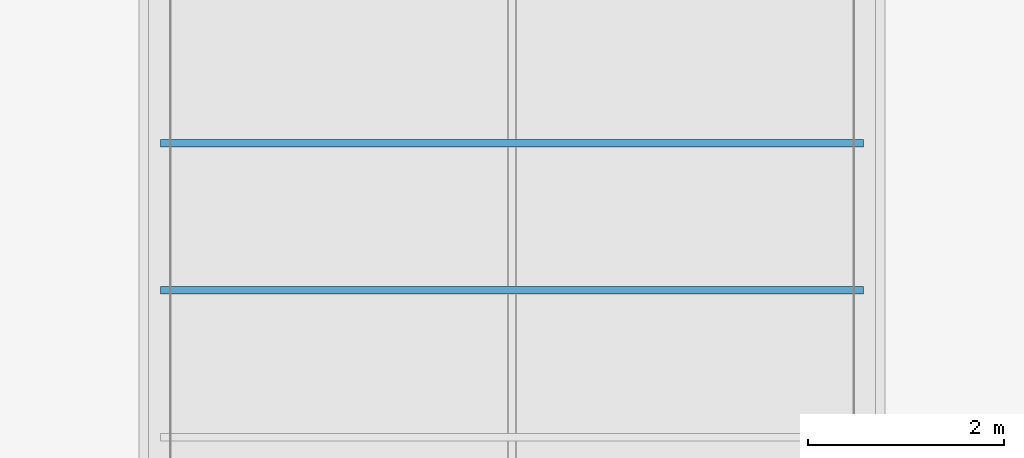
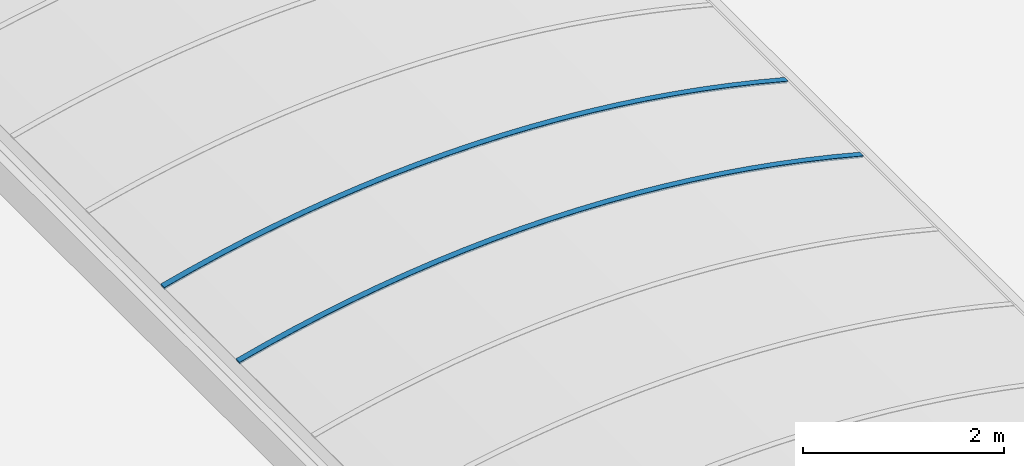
# One storey, part 60 of 81: 2 beams.
"""IFC2X3 building model written with IfcOpenShell, lengths in millimetres."""

from ifc_helpers import new_model, entity, si_unit, converted_unit, derived_unit, money_unit, direction, frame, origin_with_axes, place, context, subcontext, project, spatial, faceted_brep, material, material_list, type_object, element, save


model = new_model("IFC2X3")

# Units and contexts
model_context = context("Model", 3, precision=0.01, world=origin_with_axes(), true_north=direction((0.0, 1.0)))
body_context = subcontext(model_context, "Body", "Model", "MODEL_VIEW")
ifc_project = project(units=[si_unit("LENGTHUNIT", "METRE", prefix="MILLI"), si_unit("AREAUNIT", "SQUARE_METRE"), si_unit("VOLUMEUNIT", "CUBIC_METRE"), converted_unit("PLANEANGLEUNIT", "DEGREE", entity("IfcPlaneAngleMeasure", 0.0174532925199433), si_unit("PLANEANGLEUNIT", "RADIAN"), dimensions=[0, 0, 0, 0, 0, 0, 0]), money_unit("EUR"), converted_unit("TIMEUNIT", "Year", entity("IfcTimeMeasure", 31557600.0), si_unit("TIMEUNIT", "SECOND"), dimensions=[0, 0, 1, 0, 0, 0, 0]), si_unit("MASSUNIT", "GRAM", prefix="KILO"), si_unit("THERMODYNAMICTEMPERATUREUNIT", "DEGREE_CELSIUS"), si_unit("LUMINOUSINTENSITYUNIT", "LUMEN"), si_unit("ENERGYUNIT", "JOULE", prefix="MEGA"), derived_unit("THERMALCONDUCTANCEUNIT", [(si_unit("POWERUNIT", "WATT"), 1), (si_unit("LENGTHUNIT", "METRE"), -1), (si_unit("THERMODYNAMICTEMPERATUREUNIT", "KELVIN"), -1)]), derived_unit("SPECIFICHEATCAPACITYUNIT", [(si_unit("ENERGYUNIT", "JOULE"), 1), (si_unit("MASSUNIT", "GRAM", prefix="KILO"), -1), (si_unit("THERMODYNAMICTEMPERATUREUNIT", "KELVIN"), -1)]), derived_unit("MASSDENSITYUNIT", [(si_unit("MASSUNIT", "GRAM", prefix="KILO"), 1), (si_unit("VOLUMEUNIT", "CUBIC_METRE"), -1)])], contexts=[model_context])

# Site, building, storey
site_placement = place(None, origin_with_axes())
site = spatial("IfcSite", under=ifc_project, at=site_placement, Name="Site", CompositionType="ELEMENT")
building_placement = place(site_placement, origin_with_axes())
building = spatial("IfcBuilding", under=site, at=building_placement, Name="Naam gebouw", CompositionType="ELEMENT")
storey_placement = place(building_placement, frame((0.0, 0.0, 15320.0), z_axis=(0.0, 0.0, 1.0), x_axis=(1.0, 0.0, 0.0)))
storey = spatial("IfcBuildingStorey", under=building, at=storey_placement, Name="01 dak", CompositionType="ELEMENT", Elevation=15320.0)

# Beams
ifc_material = material(Name="Metaal - Aluminium AFW")
ifc_material_list = material_list([ifc_material, ifc_material])
beam_type = type_object("IfcBeamType", Name="lichtstraat polycarbonaat (constructie) 7420 x 670", PredefinedType="BEAM")
beam_1_placement = place(storey_placement, frame((105300.0, 86862.50000000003, 559.9999999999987), z_axis=(0.0, 0.0, 1.0), x_axis=(1.0, 0.0, 0.0)))
element("IfcBeam", 1, at=beam_1_placement, inside=storey, type_object=beam_type, material=ifc_material_list, Name="Plafondafwerking 3", ObjectType="BEAM", context=body_context, shape_type="Brep", body=[
    faceted_brep([(-3532.999999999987, 75.00000000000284, 192.1385480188), (-3532.999999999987, 0.0, 192.1385480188), (-3582.999999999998, 0.0, 179.000000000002), (-3582.999999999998, 75.00000000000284, 179.000000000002), (-3527.999999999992, 75.00000000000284, 193.4415530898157), (-3527.999999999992, 0.0, 193.4415530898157), (-2943.44844329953, 0.0, 337.3385317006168), (-3264.746952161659, 0.0, 264.2761146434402), (-3584.237010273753, 0.0, 183.6724462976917), (-3213.32287812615, 0.0, 271.5053933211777), (-2896.922437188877, 0.0, 342.2614189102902), (-2578.96836412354, 0.0, 405.6716830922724), (-2259.631179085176, 0.0, 461.7021786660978), (-1939.082143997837, 0.0, 510.3228562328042), (-1617.493170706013, 0.0, 551.5076403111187), (-1295.036728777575, 0.0, 585.2344433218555), (-971.8857530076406, 0.0, 611.485177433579), (-648.2135506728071, 0.0, 630.2457642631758), (-324.1937085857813, 0.0, 641.5061424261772), (0.0, 0.0, 645.2602729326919), (324.1937085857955, 0.0, 641.5061424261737), (648.2135506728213, 0.0, 630.2457642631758), (971.8857530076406, 0.0, 611.4851774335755), (1295.036728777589, 0.0, 585.2344433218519), (1617.493170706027, 0.0, 551.5076403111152), (1939.082143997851, 0.0, 510.3228562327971), (2259.63117908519, 0.0, 461.7021786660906), (2578.96836412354, 0.0, 405.6716830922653), (2896.922437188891, 0.0, 342.2614189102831), (3213.322878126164, 0.0, 271.5053933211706), (3528.000000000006, 0.0, 193.4415530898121), (3528.000000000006, 0.0, 194.0000000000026), (3533.000000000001, 0.0, 194.0000000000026), (3533.000000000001, 0.0, 192.1385480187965), (3582.999999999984, 0.0, 179.000000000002), (3584.237010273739, 0.0, 183.6724462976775), (3264.746952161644, 0.0, 264.2761146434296), (2943.448443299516, 0.0, 337.3385317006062), (2620.51946150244, 0.0, 402.8192257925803), (2296.138887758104, 0.0, 460.6819250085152), (1970.486407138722, 0.0, 510.8945772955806), (1643.742409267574, 0.0, 553.4293682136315), (1316.087888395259, 0.0, 588.2627363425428), (987.7043431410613, 0.0, 615.3753863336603), (658.7736759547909, 0.0, 634.7522995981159), (329.4780923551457, 0.0, 646.3827426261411), (0.0, 0.0, 650.2602729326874), (-329.4780923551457, 0.0, 646.3827426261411), (-658.7736759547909, 0.0, 634.7522995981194), (-987.7043431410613, 0.0, 615.375386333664), (-1316.087888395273, 0.0, 588.2627363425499), (-1643.742409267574, 0.0, 553.4293682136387), (-1970.486407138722, 0.0, 510.8945772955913), (-2296.138887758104, 0.0, 460.6819250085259), (-2620.519461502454, 0.0, 402.8192257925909), (-3584.237010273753, 75.00000000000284, 183.6724462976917), (-3213.32287812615, 75.00000000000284, 271.5053933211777), (-3264.746952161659, 75.00000000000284, 264.2761146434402), (-2943.44844329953, 75.00000000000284, 337.3385317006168), (-2620.519461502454, 75.00000000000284, 402.8192257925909), (-2296.138887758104, 75.00000000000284, 460.6819250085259), (-1970.486407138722, 75.00000000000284, 510.8945772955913), (-1643.742409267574, 75.00000000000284, 553.4293682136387), (-1316.087888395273, 75.00000000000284, 588.2627363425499), (-987.7043431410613, 75.00000000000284, 615.375386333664), (-658.7736759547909, 75.00000000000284, 634.7522995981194), (-329.4780923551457, 75.00000000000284, 646.3827426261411), (0.0, 75.00000000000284, 650.2602729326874), (329.4780923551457, 75.00000000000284, 646.3827426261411), (658.7736759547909, 75.00000000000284, 634.7522995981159), (987.7043431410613, 75.00000000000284, 615.3753863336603), (1316.087888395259, 75.00000000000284, 588.2627363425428), (1643.742409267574, 75.00000000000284, 553.4293682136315), (1970.486407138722, 75.00000000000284, 510.8945772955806), (2296.138887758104, 75.00000000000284, 460.6819250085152), (2620.51946150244, 75.00000000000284, 402.8192257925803), (2943.448443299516, 75.00000000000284, 337.3385317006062), (3264.746952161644, 75.00000000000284, 264.2761146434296), (3584.237010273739, 75.00000000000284, 183.6724462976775), (3582.999999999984, 75.00000000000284, 179.000000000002), (3533.000000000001, 75.00000000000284, 192.1385480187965), (3533.000000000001, 75.00000000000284, 194.0000000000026), (3528.000000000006, 75.00000000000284, 194.0000000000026), (3528.000000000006, 75.00000000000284, 193.4415530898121), (3213.322878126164, 75.00000000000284, 271.5053933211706), (2896.922437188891, 75.00000000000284, 342.2614189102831), (2578.96836412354, 75.00000000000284, 405.6716830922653), (2259.63117908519, 75.00000000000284, 461.7021786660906), (1939.082143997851, 75.00000000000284, 510.3228562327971), (1617.493170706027, 75.00000000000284, 551.5076403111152), (1295.036728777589, 75.00000000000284, 585.2344433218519), (971.8857530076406, 75.00000000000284, 611.4851774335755), (648.2135506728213, 75.00000000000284, 630.2457642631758), (324.1937085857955, 75.00000000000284, 641.5061424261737), (0.0, 75.00000000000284, 645.2602729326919), (-324.1937085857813, 75.00000000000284, 641.5061424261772), (-648.2135506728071, 75.00000000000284, 630.2457642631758), (-971.8857530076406, 75.00000000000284, 611.485177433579), (-1295.036728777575, 75.00000000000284, 585.2344433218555), (-1617.493170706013, 75.00000000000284, 551.5076403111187), (-1939.082143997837, 75.00000000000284, 510.3228562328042), (-2259.631179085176, 75.00000000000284, 461.7021786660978), (-2578.96836412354, 75.00000000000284, 405.6716830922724), (-2896.922437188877, 75.00000000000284, 342.2614189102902)], [[[0, 1, 2, 3]], [[4, 5, 1, 0]], [[6, 7, 8, 2, 1, 5, 9, 10, 11, 12, 13, 14, 15, 16, 17, 18, 19, 20, 21, 22, 23, 24, 25, 26, 27, 28, 29, 30, 31, 32, 33, 34, 35, 36, 37, 38, 39, 40, 41, 42, 43, 44, 45, 46, 47, 48, 49, 50, 51, 52, 53, 54]], [[3, 2, 8, 55]], [[56, 4, 0, 3, 55, 57, 58, 59, 60, 61, 62, 63, 64, 65, 66, 67, 68, 69, 70, 71, 72, 73, 74, 75, 76, 77, 78, 79, 80, 81, 82, 83, 84, 85, 86, 87, 88, 89, 90, 91, 92, 93, 94, 95, 96, 97, 98, 99, 100, 101, 102, 103]], [[56, 9, 5, 4]], [[57, 7, 6, 58]], [[55, 8, 7, 57]], [[103, 10, 9, 56]], [[102, 11, 10, 103]], [[101, 12, 11, 102]], [[100, 13, 12, 101]], [[99, 14, 13, 100]], [[98, 15, 14, 99]], [[97, 16, 15, 98]], [[96, 17, 16, 97]], [[95, 18, 17, 96]], [[94, 19, 18, 95]], [[93, 20, 19, 94]], [[92, 21, 20, 93]], [[91, 22, 21, 92]], [[90, 23, 22, 91]], [[89, 24, 23, 90]], [[88, 25, 24, 89]], [[87, 26, 25, 88]], [[86, 27, 26, 87]], [[85, 28, 27, 86]], [[84, 29, 28, 85]], [[83, 30, 29, 84]], [[82, 31, 30, 83]], [[81, 32, 31, 82]], [[80, 33, 32, 81]], [[79, 34, 33, 80]], [[78, 35, 34, 79]], [[77, 36, 35, 78]], [[76, 37, 36, 77]], [[75, 38, 37, 76]], [[74, 39, 38, 75]], [[73, 40, 39, 74]], [[72, 41, 40, 73]], [[71, 42, 41, 72]], [[70, 43, 42, 71]], [[69, 44, 43, 70]], [[68, 45, 44, 69]], [[67, 46, 45, 68]], [[66, 47, 46, 67]], [[65, 48, 47, 66]], [[64, 49, 48, 65]], [[63, 50, 49, 64]], [[62, 51, 50, 63]], [[61, 52, 51, 62]], [[60, 53, 52, 61]], [[59, 54, 53, 60]], [[58, 6, 54, 59]]]),
    faceted_brep([(3269.271727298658, 75.00000000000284, 283.190243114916), (2947.542627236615, 75.00000000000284, 356.4574241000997), (2947.542627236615, 0.0, 356.4574241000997), (3269.271727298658, 0.0, 283.190243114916), (3589.184752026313, 75.00000000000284, 202.3611008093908), (3587.947861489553, 75.00000000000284, 197.6891067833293), (3528.000000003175, 75.00000000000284, 213.4415530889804), (3213.322878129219, 75.00000000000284, 291.505393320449), (2896.922437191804, 75.00000000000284, 362.2614189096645), (2578.968364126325, 75.00000000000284, 425.6716830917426), (2259.631179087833, 75.00000000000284, 481.7021786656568), (1939.082144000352, 75.00000000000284, 530.3228562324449), (1617.493170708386, 75.00000000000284, 571.5076403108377), (1295.036728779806, 75.00000000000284, 605.2344433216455), (971.8857530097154, 75.00000000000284, 631.4851774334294), (648.2135506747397, 75.00000000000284, 650.2457642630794), (324.1937085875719, 75.00000000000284, 661.5061424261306), (1.63424829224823e-09, 75.00000000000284, 665.2602729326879), (-324.1937085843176, 75.00000000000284, 661.5061424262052), (-648.2135506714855, 75.00000000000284, 650.2457642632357), (-971.8857530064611, 75.00000000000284, 631.4851774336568), (-1295.036728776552, 75.00000000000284, 605.2344433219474), (-1617.493170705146, 75.00000000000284, 571.5076403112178), (-1939.082143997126, 75.00000000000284, 530.3228562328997), (-2259.631179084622, 75.00000000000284, 481.7021786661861), (-2578.968364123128, 75.00000000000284, 425.6716830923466), (-2896.922437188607, 75.00000000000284, 362.2614189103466), (-3213.322878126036, 75.00000000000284, 291.5053933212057), (-3528.00000000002, 75.00000000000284, 213.4415530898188), (-3533.000000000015, 75.00000000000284, 212.1385480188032), (-3587.947861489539, 75.00000000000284, 197.6891067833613), (-3589.184752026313, 75.00000000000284, 202.3611008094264), (-3269.271727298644, 75.00000000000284, 283.1902431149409), (-2947.542627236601, 75.00000000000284, 356.4574241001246), (-2624.176171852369, 75.00000000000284, 422.1219439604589), (-2299.351990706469, 75.00000000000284, 480.1473261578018), (-1973.250523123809, 75.00000000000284, 530.5013376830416), (-1646.052917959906, 75.00000000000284, 573.156006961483), (-1317.940932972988, 75.00000000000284, 608.0876393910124), (-989.0968338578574, 75.00000000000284, 635.2768305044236), (-659.7032929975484, 75.00000000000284, 654.7084767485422), (-329.9432879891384, 75.00000000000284, 666.3717838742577), (0.0, 75.00000000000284, 670.2602729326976), (329.9432879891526, 75.00000000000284, 666.3717838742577), (659.7032929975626, 75.00000000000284, 654.7084767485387), (989.0968338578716, 75.00000000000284, 635.2768305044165), (1317.940932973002, 75.00000000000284, 608.0876393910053), (1646.052917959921, 75.00000000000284, 573.1560069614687), (1973.250523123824, 75.00000000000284, 530.5013376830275), (2299.351990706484, 75.00000000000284, 480.147326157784), (2624.176171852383, 75.00000000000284, 422.1219439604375), (2624.176171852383, 0.0, 422.1219439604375), (2299.351990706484, 0.0, 480.147326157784), (1973.250523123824, 0.0, 530.5013376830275), (1646.052917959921, 0.0, 573.1560069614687), (1317.940932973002, 0.0, 608.0876393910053), (989.0968338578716, 0.0, 635.2768305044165), (659.7032929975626, 0.0, 654.7084767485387), (329.9432879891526, 0.0, 666.3717838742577), (0.0, 0.0, 670.2602729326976), (-329.9432879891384, 0.0, 666.3717838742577), (-659.7032929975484, 0.0, 654.7084767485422), (-989.0968338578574, 0.0, 635.2768305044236), (-1317.940932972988, 0.0, 608.0876393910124), (-1646.052917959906, 0.0, 573.156006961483), (-1973.250523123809, 0.0, 530.5013376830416), (-2299.351990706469, 0.0, 480.1473261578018), (-2624.176171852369, 0.0, 422.1219439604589), (-2947.542627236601, 0.0, 356.4574241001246), (-3269.271727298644, 0.0, 283.1902431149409), (-3589.184752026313, 0.0, 202.3611008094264), (-3587.947861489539, 0.0, 197.6891067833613), (-3533.000000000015, 0.0, 212.1385480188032), (-3528.00000000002, 0.0, 213.4415530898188), (-3213.322878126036, 0.0, 291.5053933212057), (-2896.922437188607, 0.0, 362.2614189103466), (-2578.968364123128, 0.0, 425.6716830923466), (-2259.631179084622, 0.0, 481.7021786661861), (-1939.082143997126, 0.0, 530.3228562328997), (-1617.493170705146, 0.0, 571.5076403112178), (-1295.036728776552, 0.0, 605.2344433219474), (-971.8857530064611, 0.0, 631.4851774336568), (-648.2135506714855, 0.0, 650.2457642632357), (-324.1937085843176, 0.0, 661.5061424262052), (1.63424829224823e-09, 0.0, 665.2602729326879), (324.1937085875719, 0.0, 661.5061424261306), (648.2135506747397, 0.0, 650.2457642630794), (971.8857530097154, 0.0, 631.4851774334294), (1295.036728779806, 0.0, 605.2344433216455), (1617.493170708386, 0.0, 571.5076403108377), (1939.082144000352, 0.0, 530.3228562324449), (2259.631179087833, 0.0, 481.7021786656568), (2578.968364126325, 0.0, 425.6716830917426), (2896.922437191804, 0.0, 362.2614189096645), (3213.322878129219, 0.0, 291.505393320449), (3528.000000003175, 0.0, 213.4415530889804), (3587.947861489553, 0.0, 197.6891067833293), (3589.184752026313, 0.0, 202.3611008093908)], [[[0, 1, 2, 3]], [[0, 4, 5, 6, 7, 8, 9, 10, 11, 12, 13, 14, 15, 16, 17, 18, 19, 20, 21, 22, 23, 24, 25, 26, 27, 28, 29, 30, 31, 32, 33, 34, 35, 36, 37, 38, 39, 40, 41, 42, 43, 44, 45, 46, 47, 48, 49, 50, 1]], [[1, 50, 51, 2]], [[3, 2, 51, 52, 53, 54, 55, 56, 57, 58, 59, 60, 61, 62, 63, 64, 65, 66, 67, 68, 69, 70, 71, 72, 73, 74, 75, 76, 77, 78, 79, 80, 81, 82, 83, 84, 85, 86, 87, 88, 89, 90, 91, 92, 93, 94, 95, 96, 97]], [[4, 0, 3, 97]], [[5, 4, 97, 96]], [[6, 5, 96, 95]], [[7, 6, 95, 94]], [[8, 7, 94, 93]], [[9, 8, 93, 92]], [[10, 9, 92, 91]], [[11, 10, 91, 90]], [[12, 11, 90, 89]], [[13, 12, 89, 88]], [[14, 13, 88, 87]], [[15, 14, 87, 86]], [[16, 15, 86, 85]], [[17, 16, 85, 84]], [[18, 17, 84, 83]], [[19, 18, 83, 82]], [[20, 19, 82, 81]], [[21, 20, 81, 80]], [[22, 21, 80, 79]], [[23, 22, 79, 78]], [[24, 23, 78, 77]], [[25, 24, 77, 76]], [[26, 25, 76, 75]], [[27, 26, 75, 74]], [[28, 27, 74, 73]], [[29, 28, 73, 72]], [[30, 29, 72, 71]], [[31, 30, 71, 70]], [[32, 31, 70, 69]], [[33, 32, 69, 68]], [[34, 33, 68, 67]], [[35, 34, 67, 66]], [[36, 35, 66, 65]], [[37, 36, 65, 64]], [[38, 37, 64, 63]], [[39, 38, 63, 62]], [[40, 39, 62, 61]], [[41, 40, 61, 60]], [[42, 41, 60, 59]], [[43, 42, 59, 58]], [[44, 43, 58, 57]], [[45, 44, 57, 56]], [[46, 45, 56, 55]], [[47, 46, 55, 54]], [[48, 47, 54, 53]], [[49, 48, 53, 52]], [[50, 49, 52, 51]]]),
])
beam_2_placement = place(storey_placement, frame((105300.0, 88362.50000000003, 559.9999999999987), z_axis=(0.0, 0.0, 1.0), x_axis=(1.0, 0.0, 0.0)))
element("IfcBeam", 2, at=beam_2_placement, inside=storey, type_object=beam_type, material=ifc_material_list, Name="Plafondafwerking 3", ObjectType="BEAM", context=body_context, shape_type="Brep", body=[
    faceted_brep([(-3532.999999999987, 75.00000000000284, 192.1385480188), (-3532.999999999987, 0.0, 192.1385480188), (-3582.999999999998, 0.0, 179.000000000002), (-3582.999999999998, 75.00000000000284, 179.000000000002), (-3527.999999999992, 75.00000000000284, 193.4415530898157), (-3527.999999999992, 0.0, 193.4415530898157), (-2943.44844329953, 0.0, 337.3385317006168), (-3264.746952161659, 0.0, 264.2761146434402), (-3584.237010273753, 0.0, 183.6724462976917), (-3213.32287812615, 0.0, 271.5053933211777), (-2896.922437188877, 0.0, 342.2614189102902), (-2578.96836412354, 0.0, 405.6716830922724), (-2259.631179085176, 0.0, 461.7021786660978), (-1939.082143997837, 0.0, 510.3228562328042), (-1617.493170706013, 0.0, 551.5076403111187), (-1295.036728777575, 0.0, 585.2344433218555), (-971.8857530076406, 0.0, 611.485177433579), (-648.2135506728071, 0.0, 630.2457642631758), (-324.1937085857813, 0.0, 641.5061424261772), (0.0, 0.0, 645.2602729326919), (324.1937085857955, 0.0, 641.5061424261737), (648.2135506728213, 0.0, 630.2457642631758), (971.8857530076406, 0.0, 611.4851774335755), (1295.036728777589, 0.0, 585.2344433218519), (1617.493170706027, 0.0, 551.5076403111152), (1939.082143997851, 0.0, 510.3228562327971), (2259.63117908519, 0.0, 461.7021786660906), (2578.96836412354, 0.0, 405.6716830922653), (2896.922437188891, 0.0, 342.2614189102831), (3213.322878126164, 0.0, 271.5053933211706), (3528.000000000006, 0.0, 193.4415530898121), (3528.000000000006, 0.0, 194.0000000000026), (3533.000000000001, 0.0, 194.0000000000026), (3533.000000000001, 0.0, 192.1385480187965), (3582.999999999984, 0.0, 179.000000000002), (3584.237010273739, 0.0, 183.6724462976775), (3264.746952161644, 0.0, 264.2761146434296), (2943.448443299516, 0.0, 337.3385317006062), (2620.51946150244, 0.0, 402.8192257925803), (2296.138887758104, 0.0, 460.6819250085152), (1970.486407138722, 0.0, 510.8945772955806), (1643.742409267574, 0.0, 553.4293682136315), (1316.087888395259, 0.0, 588.2627363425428), (987.7043431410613, 0.0, 615.3753863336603), (658.7736759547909, 0.0, 634.7522995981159), (329.4780923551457, 0.0, 646.3827426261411), (0.0, 0.0, 650.2602729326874), (-329.4780923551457, 0.0, 646.3827426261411), (-658.7736759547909, 0.0, 634.7522995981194), (-987.7043431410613, 0.0, 615.375386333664), (-1316.087888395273, 0.0, 588.2627363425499), (-1643.742409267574, 0.0, 553.4293682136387), (-1970.486407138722, 0.0, 510.8945772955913), (-2296.138887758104, 0.0, 460.6819250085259), (-2620.519461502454, 0.0, 402.8192257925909), (-3584.237010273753, 75.00000000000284, 183.6724462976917), (-3213.32287812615, 75.00000000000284, 271.5053933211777), (-3264.746952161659, 75.00000000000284, 264.2761146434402), (-2943.44844329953, 75.00000000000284, 337.3385317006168), (-2620.519461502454, 75.00000000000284, 402.8192257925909), (-2296.138887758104, 75.00000000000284, 460.6819250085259), (-1970.486407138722, 75.00000000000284, 510.8945772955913), (-1643.742409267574, 75.00000000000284, 553.4293682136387), (-1316.087888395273, 75.00000000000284, 588.2627363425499), (-987.7043431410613, 75.00000000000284, 615.375386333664), (-658.7736759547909, 75.00000000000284, 634.7522995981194), (-329.4780923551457, 75.00000000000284, 646.3827426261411), (0.0, 75.00000000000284, 650.2602729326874), (329.4780923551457, 75.00000000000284, 646.3827426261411), (658.7736759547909, 75.00000000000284, 634.7522995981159), (987.7043431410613, 75.00000000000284, 615.3753863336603), (1316.087888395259, 75.00000000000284, 588.2627363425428), (1643.742409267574, 75.00000000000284, 553.4293682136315), (1970.486407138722, 75.00000000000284, 510.8945772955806), (2296.138887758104, 75.00000000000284, 460.6819250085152), (2620.51946150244, 75.00000000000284, 402.8192257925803), (2943.448443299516, 75.00000000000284, 337.3385317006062), (3264.746952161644, 75.00000000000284, 264.2761146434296), (3584.237010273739, 75.00000000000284, 183.6724462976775), (3582.999999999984, 75.00000000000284, 179.000000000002), (3533.000000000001, 75.00000000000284, 192.1385480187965), (3533.000000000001, 75.00000000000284, 194.0000000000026), (3528.000000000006, 75.00000000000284, 194.0000000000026), (3528.000000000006, 75.00000000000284, 193.4415530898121), (3213.322878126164, 75.00000000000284, 271.5053933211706), (2896.922437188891, 75.00000000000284, 342.2614189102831), (2578.96836412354, 75.00000000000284, 405.6716830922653), (2259.63117908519, 75.00000000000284, 461.7021786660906), (1939.082143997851, 75.00000000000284, 510.3228562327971), (1617.493170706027, 75.00000000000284, 551.5076403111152), (1295.036728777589, 75.00000000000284, 585.2344433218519), (971.8857530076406, 75.00000000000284, 611.4851774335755), (648.2135506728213, 75.00000000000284, 630.2457642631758), (324.1937085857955, 75.00000000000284, 641.5061424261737), (0.0, 75.00000000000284, 645.2602729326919), (-324.1937085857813, 75.00000000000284, 641.5061424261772), (-648.2135506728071, 75.00000000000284, 630.2457642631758), (-971.8857530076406, 75.00000000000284, 611.485177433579), (-1295.036728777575, 75.00000000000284, 585.2344433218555), (-1617.493170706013, 75.00000000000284, 551.5076403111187), (-1939.082143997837, 75.00000000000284, 510.3228562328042), (-2259.631179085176, 75.00000000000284, 461.7021786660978), (-2578.96836412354, 75.00000000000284, 405.6716830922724), (-2896.922437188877, 75.00000000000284, 342.2614189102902)], [[[0, 1, 2, 3]], [[4, 5, 1, 0]], [[6, 7, 8, 2, 1, 5, 9, 10, 11, 12, 13, 14, 15, 16, 17, 18, 19, 20, 21, 22, 23, 24, 25, 26, 27, 28, 29, 30, 31, 32, 33, 34, 35, 36, 37, 38, 39, 40, 41, 42, 43, 44, 45, 46, 47, 48, 49, 50, 51, 52, 53, 54]], [[3, 2, 8, 55]], [[56, 4, 0, 3, 55, 57, 58, 59, 60, 61, 62, 63, 64, 65, 66, 67, 68, 69, 70, 71, 72, 73, 74, 75, 76, 77, 78, 79, 80, 81, 82, 83, 84, 85, 86, 87, 88, 89, 90, 91, 92, 93, 94, 95, 96, 97, 98, 99, 100, 101, 102, 103]], [[56, 9, 5, 4]], [[57, 7, 6, 58]], [[55, 8, 7, 57]], [[103, 10, 9, 56]], [[102, 11, 10, 103]], [[101, 12, 11, 102]], [[100, 13, 12, 101]], [[99, 14, 13, 100]], [[98, 15, 14, 99]], [[97, 16, 15, 98]], [[96, 17, 16, 97]], [[95, 18, 17, 96]], [[94, 19, 18, 95]], [[93, 20, 19, 94]], [[92, 21, 20, 93]], [[91, 22, 21, 92]], [[90, 23, 22, 91]], [[89, 24, 23, 90]], [[88, 25, 24, 89]], [[87, 26, 25, 88]], [[86, 27, 26, 87]], [[85, 28, 27, 86]], [[84, 29, 28, 85]], [[83, 30, 29, 84]], [[82, 31, 30, 83]], [[81, 32, 31, 82]], [[80, 33, 32, 81]], [[79, 34, 33, 80]], [[78, 35, 34, 79]], [[77, 36, 35, 78]], [[76, 37, 36, 77]], [[75, 38, 37, 76]], [[74, 39, 38, 75]], [[73, 40, 39, 74]], [[72, 41, 40, 73]], [[71, 42, 41, 72]], [[70, 43, 42, 71]], [[69, 44, 43, 70]], [[68, 45, 44, 69]], [[67, 46, 45, 68]], [[66, 47, 46, 67]], [[65, 48, 47, 66]], [[64, 49, 48, 65]], [[63, 50, 49, 64]], [[62, 51, 50, 63]], [[61, 52, 51, 62]], [[60, 53, 52, 61]], [[59, 54, 53, 60]], [[58, 6, 54, 59]]]),
    faceted_brep([(3269.271727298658, 75.00000000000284, 283.190243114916), (2947.542627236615, 75.00000000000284, 356.4574241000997), (2947.542627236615, 0.0, 356.4574241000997), (3269.271727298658, 0.0, 283.190243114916), (3589.184752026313, 75.00000000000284, 202.3611008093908), (3587.947861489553, 75.00000000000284, 197.6891067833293), (3528.000000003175, 75.00000000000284, 213.4415530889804), (3213.322878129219, 75.00000000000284, 291.505393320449), (2896.922437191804, 75.00000000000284, 362.2614189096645), (2578.968364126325, 75.00000000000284, 425.6716830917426), (2259.631179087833, 75.00000000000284, 481.7021786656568), (1939.082144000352, 75.00000000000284, 530.3228562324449), (1617.493170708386, 75.00000000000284, 571.5076403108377), (1295.036728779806, 75.00000000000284, 605.2344433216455), (971.8857530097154, 75.00000000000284, 631.4851774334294), (648.2135506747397, 75.00000000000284, 650.2457642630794), (324.1937085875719, 75.00000000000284, 661.5061424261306), (1.63424829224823e-09, 75.00000000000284, 665.2602729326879), (-324.1937085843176, 75.00000000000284, 661.5061424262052), (-648.2135506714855, 75.00000000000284, 650.2457642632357), (-971.8857530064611, 75.00000000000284, 631.4851774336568), (-1295.036728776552, 75.00000000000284, 605.2344433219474), (-1617.493170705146, 75.00000000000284, 571.5076403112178), (-1939.082143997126, 75.00000000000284, 530.3228562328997), (-2259.631179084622, 75.00000000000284, 481.7021786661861), (-2578.968364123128, 75.00000000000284, 425.6716830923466), (-2896.922437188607, 75.00000000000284, 362.2614189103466), (-3213.322878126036, 75.00000000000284, 291.5053933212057), (-3528.00000000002, 75.00000000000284, 213.4415530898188), (-3533.000000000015, 75.00000000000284, 212.1385480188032), (-3587.947861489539, 75.00000000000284, 197.6891067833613), (-3589.184752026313, 75.00000000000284, 202.3611008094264), (-3269.271727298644, 75.00000000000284, 283.1902431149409), (-2947.542627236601, 75.00000000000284, 356.4574241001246), (-2624.176171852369, 75.00000000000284, 422.1219439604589), (-2299.351990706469, 75.00000000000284, 480.1473261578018), (-1973.250523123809, 75.00000000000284, 530.5013376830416), (-1646.052917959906, 75.00000000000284, 573.156006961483), (-1317.940932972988, 75.00000000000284, 608.0876393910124), (-989.0968338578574, 75.00000000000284, 635.2768305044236), (-659.7032929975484, 75.00000000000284, 654.7084767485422), (-329.9432879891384, 75.00000000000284, 666.3717838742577), (0.0, 75.00000000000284, 670.2602729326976), (329.9432879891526, 75.00000000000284, 666.3717838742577), (659.7032929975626, 75.00000000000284, 654.7084767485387), (989.0968338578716, 75.00000000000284, 635.2768305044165), (1317.940932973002, 75.00000000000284, 608.0876393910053), (1646.052917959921, 75.00000000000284, 573.1560069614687), (1973.250523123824, 75.00000000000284, 530.5013376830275), (2299.351990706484, 75.00000000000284, 480.147326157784), (2624.176171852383, 75.00000000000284, 422.1219439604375), (2624.176171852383, 0.0, 422.1219439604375), (2299.351990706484, 0.0, 480.147326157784), (1973.250523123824, 0.0, 530.5013376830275), (1646.052917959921, 0.0, 573.1560069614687), (1317.940932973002, 0.0, 608.0876393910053), (989.0968338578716, 0.0, 635.2768305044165), (659.7032929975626, 0.0, 654.7084767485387), (329.9432879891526, 0.0, 666.3717838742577), (0.0, 0.0, 670.2602729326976), (-329.9432879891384, 0.0, 666.3717838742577), (-659.7032929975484, 0.0, 654.7084767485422), (-989.0968338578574, 0.0, 635.2768305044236), (-1317.940932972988, 0.0, 608.0876393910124), (-1646.052917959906, 0.0, 573.156006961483), (-1973.250523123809, 0.0, 530.5013376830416), (-2299.351990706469, 0.0, 480.1473261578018), (-2624.176171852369, 0.0, 422.1219439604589), (-2947.542627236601, 0.0, 356.4574241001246), (-3269.271727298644, 0.0, 283.1902431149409), (-3589.184752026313, 0.0, 202.3611008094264), (-3587.947861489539, 0.0, 197.6891067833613), (-3533.000000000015, 0.0, 212.1385480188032), (-3528.00000000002, 0.0, 213.4415530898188), (-3213.322878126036, 0.0, 291.5053933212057), (-2896.922437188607, 0.0, 362.2614189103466), (-2578.968364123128, 0.0, 425.6716830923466), (-2259.631179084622, 0.0, 481.7021786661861), (-1939.082143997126, 0.0, 530.3228562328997), (-1617.493170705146, 0.0, 571.5076403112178), (-1295.036728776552, 0.0, 605.2344433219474), (-971.8857530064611, 0.0, 631.4851774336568), (-648.2135506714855, 0.0, 650.2457642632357), (-324.1937085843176, 0.0, 661.5061424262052), (1.63424829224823e-09, 0.0, 665.2602729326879), (324.1937085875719, 0.0, 661.5061424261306), (648.2135506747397, 0.0, 650.2457642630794), (971.8857530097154, 0.0, 631.4851774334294), (1295.036728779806, 0.0, 605.2344433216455), (1617.493170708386, 0.0, 571.5076403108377), (1939.082144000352, 0.0, 530.3228562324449), (2259.631179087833, 0.0, 481.7021786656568), (2578.968364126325, 0.0, 425.6716830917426), (2896.922437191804, 0.0, 362.2614189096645), (3213.322878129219, 0.0, 291.505393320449), (3528.000000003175, 0.0, 213.4415530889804), (3587.947861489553, 0.0, 197.6891067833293), (3589.184752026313, 0.0, 202.3611008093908)], [[[0, 1, 2, 3]], [[0, 4, 5, 6, 7, 8, 9, 10, 11, 12, 13, 14, 15, 16, 17, 18, 19, 20, 21, 22, 23, 24, 25, 26, 27, 28, 29, 30, 31, 32, 33, 34, 35, 36, 37, 38, 39, 40, 41, 42, 43, 44, 45, 46, 47, 48, 49, 50, 1]], [[1, 50, 51, 2]], [[3, 2, 51, 52, 53, 54, 55, 56, 57, 58, 59, 60, 61, 62, 63, 64, 65, 66, 67, 68, 69, 70, 71, 72, 73, 74, 75, 76, 77, 78, 79, 80, 81, 82, 83, 84, 85, 86, 87, 88, 89, 90, 91, 92, 93, 94, 95, 96, 97]], [[4, 0, 3, 97]], [[5, 4, 97, 96]], [[6, 5, 96, 95]], [[7, 6, 95, 94]], [[8, 7, 94, 93]], [[9, 8, 93, 92]], [[10, 9, 92, 91]], [[11, 10, 91, 90]], [[12, 11, 90, 89]], [[13, 12, 89, 88]], [[14, 13, 88, 87]], [[15, 14, 87, 86]], [[16, 15, 86, 85]], [[17, 16, 85, 84]], [[18, 17, 84, 83]], [[19, 18, 83, 82]], [[20, 19, 82, 81]], [[21, 20, 81, 80]], [[22, 21, 80, 79]], [[23, 22, 79, 78]], [[24, 23, 78, 77]], [[25, 24, 77, 76]], [[26, 25, 76, 75]], [[27, 26, 75, 74]], [[28, 27, 74, 73]], [[29, 28, 73, 72]], [[30, 29, 72, 71]], [[31, 30, 71, 70]], [[32, 31, 70, 69]], [[33, 32, 69, 68]], [[34, 33, 68, 67]], [[35, 34, 67, 66]], [[36, 35, 66, 65]], [[37, 36, 65, 64]], [[38, 37, 64, 63]], [[39, 38, 63, 62]], [[40, 39, 62, 61]], [[41, 40, 61, 60]], [[42, 41, 60, 59]], [[43, 42, 59, 58]], [[44, 43, 58, 57]], [[45, 44, 57, 56]], [[46, 45, 56, 55]], [[47, 46, 55, 54]], [[48, 47, 54, 53]], [[49, 48, 53, 52]], [[50, 49, 52, 51]]]),
])

save(model, "model.ifc")
